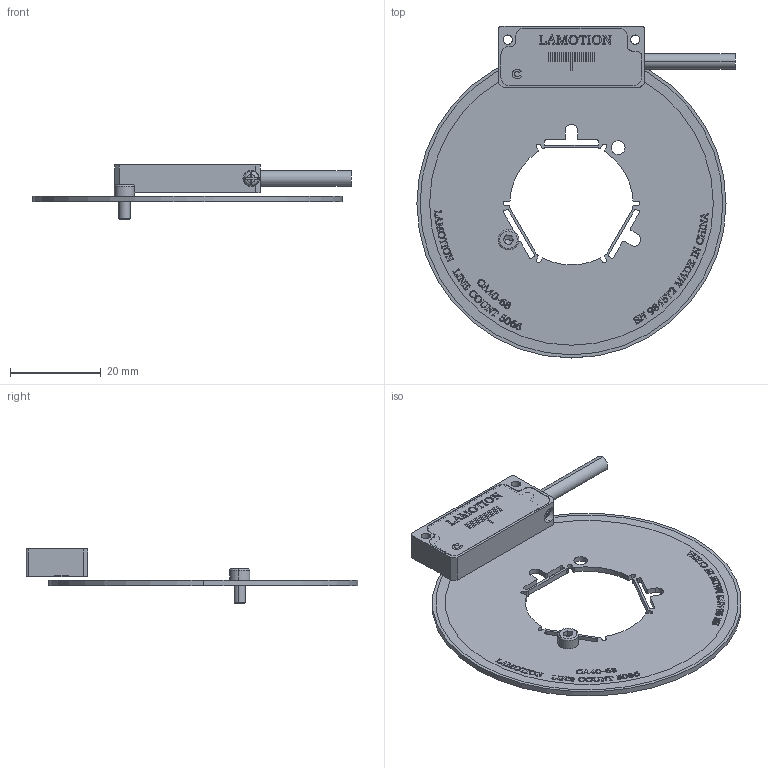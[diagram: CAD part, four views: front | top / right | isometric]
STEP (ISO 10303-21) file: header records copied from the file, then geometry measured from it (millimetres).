
FILE_DESCRIPTION (( 'STEP AP203' ), '1' );
FILE_NAME ('陔COIN+鎢攫蚾饜极 d68.STEP', '2024-08-22T01:25:07', ( '' ), ( '' ), 'SwSTEP 2.0', 'SolidWorks 2024', '' );
FILE_SCHEMA (( 'CONFIG_CONTROL_DESIGN' ));
Length unit declared in the file: millimetre
Products named in the file (8): LM018-002-01  打标; hexagon socket head cap screws gb_GB_FASTENER_SCREWS_HSHCS M2.5X5-N; LM018-001-01 B 紧凑壳体; COIN线缆; 十字槽盘头螺钉 M2-2; CA40 68 X 24.5; COIN  装配体 202405W; 新COIN+码盘装配体 d68
Assembly tree (7 placements, depth 3):
  新COIN+码盘装配体 d68
    CA40 68 X 24.5
    COIN  装配体 202405W
      LM018-002-01  打标
      十字槽盘头螺钉 M2-2
      LM018-001-01 B 紧凑壳体
      COIN线缆
    hexagon socket head cap screws gb_GB_FASTENER_SCREWS_HSHCS M2.5X5-N
Bounding box: 70 x 73 x 11.9 mm (x, y, z)
Volume: 4809.1 mm3; surface area: 9665.5 mm2
Topology: 6 solids, 6 shells, 1480 faces, 4076 edges, 2703 vertices
Faces by surface type: plane 928, bspline 386, cylinder 150, cone 12, torus 4
Entity records: 68259 total; most frequent: CARTESIAN_POINT 32155, ORIENTED_EDGE 8140, DIRECTION 5772, EDGE_CURVE 4070, LINE 2944, VECTOR 2944, VERTEX_POINT 2703, EDGE_LOOP 1605
